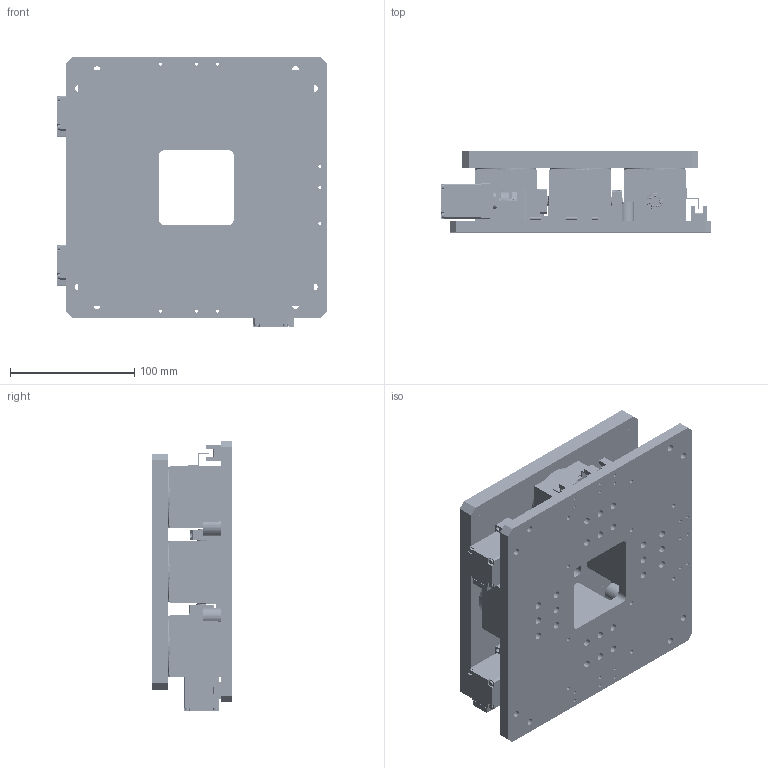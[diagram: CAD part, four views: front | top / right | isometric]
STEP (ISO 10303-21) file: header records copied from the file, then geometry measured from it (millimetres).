
FILE_DESCRIPTION (( 'STEP AP214' ), '1' );
FILE_NAME ('XXY190A-PM28.STEP', '2025-01-03T07:52:53', ( '' ), ( '' ), 'SwSTEP 2.0', 'SolidWorks 2020', '' );
FILE_SCHEMA (( 'AUTOMOTIVE_DESIGN' ));
Length unit declared in the file: millimetre
Products named in the file (1): XXY190A-PM28
Bounding box: 217 x 65 x 217 mm (x, y, z)
Surface area: 343801.7 mm2 (no closed solid volume)
Topology: 0 solids, 49 shells, 3394 faces, 8770 edges, 5317 vertices
Faces by surface type: cylinder 1447, plane 1116, bspline 680, cone 151
Entity records: 114967 total; most frequent: CARTESIAN_POINT 34834, DIRECTION 16808, ORIENTED_EDGE 16286, EDGE_CURVE 8226, AXIS2_PLACEMENT_3D 6515, VERTEX_POINT 5317, EDGE_LOOP 4374, CIRCLE 3800
